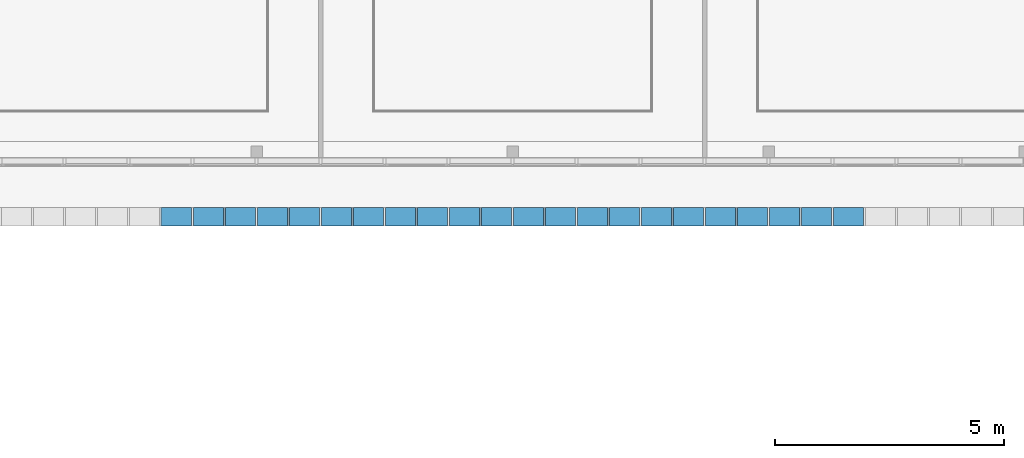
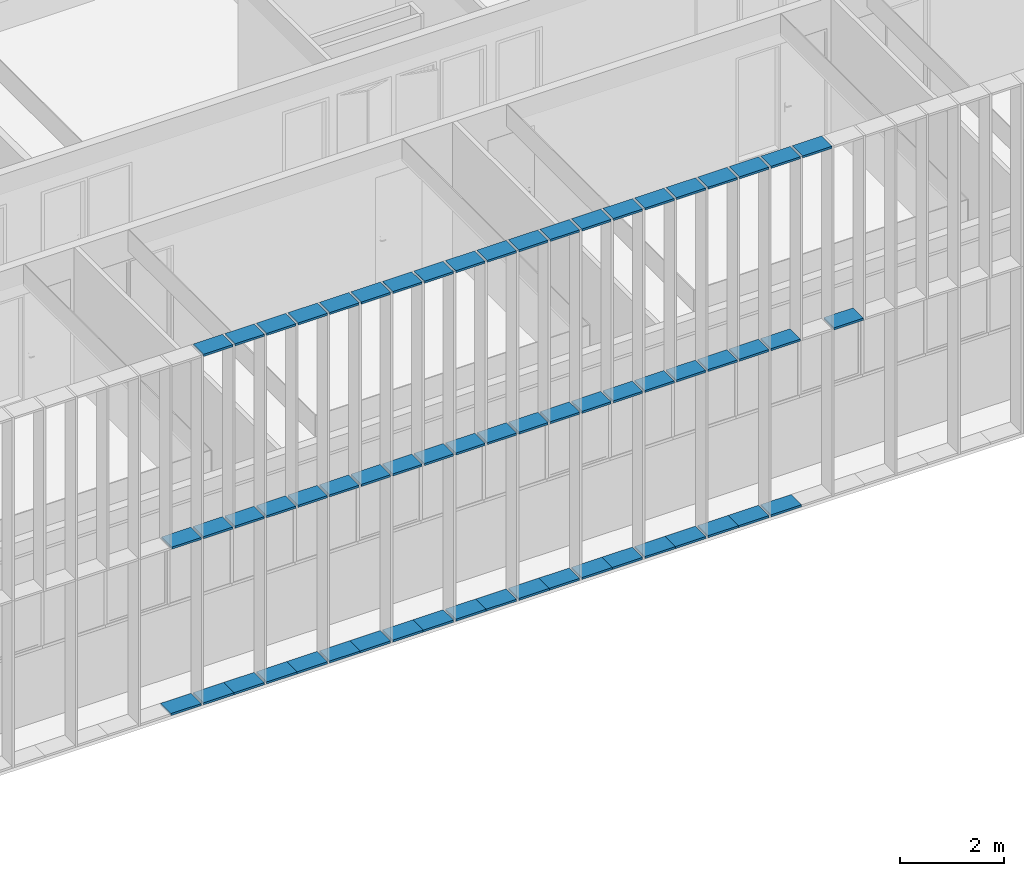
# One storey, part 24 of 106: 61 members, 1 element without a shape of its own.
"""IFC2X3 building model written with IfcOpenShell, lengths in centimetres."""

from ifc_helpers import new_model, entity, si_unit, converted_unit, derived_unit, direction, frame, origin, origin_2d_with_axis, place, context, subcontext, project, spatial, rectangle, extrude, source, transform, mapped, material, type_object, type_shapes, element, aggregate, save


model = new_model("IFC2X3")

# Units and contexts
model_context = context("Model", 3, precision=0.001, world=origin(), true_north=direction((6.12303176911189e-17, 1.0)))
body_context = subcontext(model_context, "Body", "Model", "MODEL_VIEW")
ifc_project = project(units=[si_unit("LENGTHUNIT", "METRE", prefix="CENTI"), si_unit("AREAUNIT", "SQUARE_METRE"), si_unit("VOLUMEUNIT", "CUBIC_METRE"), converted_unit("PLANEANGLEUNIT", "DEGREE", entity("IfcRatioMeasure", 0.0174532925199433), si_unit("PLANEANGLEUNIT", "RADIAN"), dimensions=[0, 0, 0, 0, 0, 0, 0]), si_unit("MASSUNIT", "GRAM", prefix="KILO"), derived_unit("MASSDENSITYUNIT", [(si_unit("MASSUNIT", "GRAM", prefix="KILO"), 1), (si_unit("LENGTHUNIT", "METRE"), -3)]), si_unit("TIMEUNIT", "SECOND"), si_unit("FREQUENCYUNIT", "HERTZ"), si_unit("THERMODYNAMICTEMPERATUREUNIT", "DEGREE_CELSIUS"), derived_unit("THERMALTRANSMITTANCEUNIT", [(si_unit("MASSUNIT", "GRAM", prefix="KILO"), 1), (si_unit("THERMODYNAMICTEMPERATUREUNIT", "KELVIN"), -1), (si_unit("TIMEUNIT", "SECOND"), -3)]), derived_unit("VOLUMETRICFLOWRATEUNIT", [(si_unit("LENGTHUNIT", "METRE"), 3), (si_unit("TIMEUNIT", "SECOND"), -1)]), si_unit("ELECTRICCURRENTUNIT", "AMPERE"), si_unit("ELECTRICVOLTAGEUNIT", "VOLT"), si_unit("POWERUNIT", "WATT"), si_unit("FORCEUNIT", "NEWTON", prefix="KILO"), si_unit("ILLUMINANCEUNIT", "LUX"), si_unit("LUMINOUSFLUXUNIT", "LUMEN"), si_unit("LUMINOUSINTENSITYUNIT", "CANDELA"), derived_unit("USERDEFINED", [(si_unit("MASSUNIT", "GRAM", prefix="KILO"), -1), (si_unit("LENGTHUNIT", "METRE"), -2), (si_unit("TIMEUNIT", "SECOND"), 3), (si_unit("LUMINOUSFLUXUNIT", "LUMEN"), 1)]), derived_unit("LINEARVELOCITYUNIT", [(si_unit("LENGTHUNIT", "METRE"), 1), (si_unit("TIMEUNIT", "SECOND"), -1)]), si_unit("PRESSUREUNIT", "PASCAL"), derived_unit("USERDEFINED", [(si_unit("LENGTHUNIT", "METRE"), -2), (si_unit("MASSUNIT", "GRAM", prefix="KILO"), 1), (si_unit("TIMEUNIT", "SECOND"), -2)])], contexts=[model_context])

# Site, building, storey
site_placement = place(None, frame((-2781.94577612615, 7442.24238424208, 0.0)))
site = spatial("IfcSite", under=ifc_project, at=site_placement, Name="Default", CompositionType="ELEMENT")
building_placement = place(site_placement, origin())
building = spatial("IfcBuilding", under=site, at=building_placement, CompositionType="ELEMENT")
storey_placement = place(building_placement, frame((0.0, 0.0, 422.0)))
storey = spatial("IfcBuildingStorey", under=building, at=storey_placement, Name="Toiture - Cuisine", CompositionType="ELEMENT", Elevation=421.999999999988)

# Curtain wall, members
curtain_wall_type = type_object("IfcCurtainWallType", Name="Mur-rideau:Epines - 400x30mm", PredefinedType="NOTDEFINED")
curtain_wall_placement = place(building_placement, origin())
curtain_wall = element("IfcCurtainWall", 1, at=curtain_wall_placement, inside=storey, type_object=curtain_wall_type, Name="Mur-rideau:Epines - 400x30mm", ObjectType="Mur-rideau:Epines - 400x30mm")
ifc_material = material(Name="Aluminium")
member_type_1 = type_object("IfcMemberType", Name="Epine sud (400x50 mm)", PredefinedType="MEMBER")
shared_shape_1 = source(origin(), body_context, "Body", "SweptSolid", [
    extrude(rectangle(XDim=40.0, YDim=5.0, at=origin_2d_with_axis()), frame((-2.5, 0.0, -65.0), z_axis=(0.0, 0.0, 1.0), x_axis=(0.0, -1.0, 0.0)), (0.0, 0.0, 1.0), 64.9999999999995),
])
type_shapes(member_type_1, [shared_shape_1])
member_1_placement = place(building_placement, frame((-2652.99987760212, -3160.31349958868, 1176.0), z_axis=(1.0, 0.0, 0.0), x_axis=(0.0, 0.0, 1.0)))
member_1 = element("IfcMember", 2, at=member_1_placement, type_object=member_type_1, material=ifc_material, Name="Meneau rectangulaire:Epine sud (400x50 mm)", ObjectType="Meneau rectangulaire:Epine sud (400x50 mm)", context=body_context, shape_type="MappedRepresentation", body=[
    mapped(shared_shape_1, transform((0.0, 0.0, 0.0), scale=1.0)),
])
member_2_placement = place(building_placement, frame((-2512.99987760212, -3160.31349958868, 1176.0), z_axis=(1.0, 0.0, 0.0), x_axis=(0.0, 0.0, 1.0)))
member_2 = element("IfcMember", 3, at=member_2_placement, type_object=member_type_1, material=ifc_material, Name="Meneau rectangulaire:Epine sud (400x50 mm)", ObjectType="Meneau rectangulaire:Epine sud (400x50 mm)", context=body_context, shape_type="MappedRepresentation", body=[
    mapped(shared_shape_1, transform((0.0, 0.0, 0.0), scale=1.0)),
])
member_3_placement = place(building_placement, frame((-2372.99987760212, -3160.31349958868, 1176.0), z_axis=(1.0, 0.0, 0.0), x_axis=(0.0, 0.0, 1.0)))
member_3 = element("IfcMember", 4, at=member_3_placement, type_object=member_type_1, material=ifc_material, Name="Meneau rectangulaire:Epine sud (400x50 mm)", ObjectType="Meneau rectangulaire:Epine sud (400x50 mm)", context=body_context, shape_type="MappedRepresentation", body=[
    mapped(shared_shape_1, transform((0.0, 0.0, 0.0), scale=1.0)),
])
member_4_placement = place(building_placement, frame((-2232.99987760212, -3160.31349958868, 1176.0), z_axis=(1.0, 0.0, 0.0), x_axis=(0.0, 0.0, 1.0)))
member_4 = element("IfcMember", 5, at=member_4_placement, type_object=member_type_1, material=ifc_material, Name="Meneau rectangulaire:Epine sud (400x50 mm)", ObjectType="Meneau rectangulaire:Epine sud (400x50 mm)", context=body_context, shape_type="MappedRepresentation", body=[
    mapped(shared_shape_1, transform((0.0, 0.0, 0.0), scale=1.0)),
])
member_5_placement = place(building_placement, frame((-2092.99987760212, -3160.31349958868, 1176.0), z_axis=(1.0, 0.0, 0.0), x_axis=(0.0, 0.0, 1.0)))
member_5 = element("IfcMember", 6, at=member_5_placement, type_object=member_type_1, material=ifc_material, Name="Meneau rectangulaire:Epine sud (400x50 mm)", ObjectType="Meneau rectangulaire:Epine sud (400x50 mm)", context=body_context, shape_type="MappedRepresentation", body=[
    mapped(shared_shape_1, transform((0.0, 0.0, 0.0), scale=1.0)),
])
member_6_placement = place(building_placement, frame((-1952.99987760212, -3160.31349958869, 1176.0), z_axis=(1.0, 0.0, 0.0), x_axis=(0.0, 0.0, 1.0)))
member_6 = element("IfcMember", 7, at=member_6_placement, type_object=member_type_1, material=ifc_material, Name="Meneau rectangulaire:Epine sud (400x50 mm)", ObjectType="Meneau rectangulaire:Epine sud (400x50 mm)", context=body_context, shape_type="MappedRepresentation", body=[
    mapped(shared_shape_1, transform((0.0, 0.0, 0.0), scale=1.0)),
])
member_7_placement = place(building_placement, frame((-1812.99987760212, -3160.31349958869, 1176.0), z_axis=(1.0, 0.0, 0.0), x_axis=(0.0, 0.0, 1.0)))
member_7 = element("IfcMember", 8, at=member_7_placement, type_object=member_type_1, material=ifc_material, Name="Meneau rectangulaire:Epine sud (400x50 mm)", ObjectType="Meneau rectangulaire:Epine sud (400x50 mm)", context=body_context, shape_type="MappedRepresentation", body=[
    mapped(shared_shape_1, transform((0.0, 0.0, 0.0), scale=1.0)),
])
member_8_placement = place(building_placement, frame((-3072.99987760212, -3160.31349958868, 1176.0), z_axis=(1.0, 0.0, 0.0), x_axis=(0.0, 0.0, 1.0)))
member_8 = element("IfcMember", 9, at=member_8_placement, type_object=member_type_1, material=ifc_material, Name="Meneau rectangulaire:Epine sud (400x50 mm)", ObjectType="Meneau rectangulaire:Epine sud (400x50 mm)", context=body_context, shape_type="MappedRepresentation", body=[
    mapped(shared_shape_1, transform((0.0, 0.0, 0.0), scale=1.0)),
])
member_9_placement = place(building_placement, frame((-2932.99987760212, -3160.31349958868, 1176.0), z_axis=(1.0, 0.0, 0.0), x_axis=(0.0, 0.0, 1.0)))
member_9 = element("IfcMember", 10, at=member_9_placement, type_object=member_type_1, material=ifc_material, Name="Meneau rectangulaire:Epine sud (400x50 mm)", ObjectType="Meneau rectangulaire:Epine sud (400x50 mm)", context=body_context, shape_type="MappedRepresentation", body=[
    mapped(shared_shape_1, transform((0.0, 0.0, 0.0), scale=1.0)),
])
member_10_placement = place(building_placement, frame((-2792.99987760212, -3160.31349958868, 1176.0), z_axis=(1.0, 0.0, 0.0), x_axis=(0.0, 0.0, 1.0)))
member_10 = element("IfcMember", 11, at=member_10_placement, type_object=member_type_1, material=ifc_material, Name="Meneau rectangulaire:Epine sud (400x50 mm)", ObjectType="Meneau rectangulaire:Epine sud (400x50 mm)", context=body_context, shape_type="MappedRepresentation", body=[
    mapped(shared_shape_1, transform((0.0, 0.0, 0.0), scale=1.0)),
])
member_11_placement = place(building_placement, frame((-3142.99987760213, -3160.31349958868, 1176.0), z_axis=(1.0, 0.0, 0.0), x_axis=(0.0, 0.0, 1.0)))
member_11 = element("IfcMember", 12, at=member_11_placement, type_object=member_type_1, material=ifc_material, Name="Meneau rectangulaire:Epine sud (400x50 mm)", ObjectType="Meneau rectangulaire:Epine sud (400x50 mm)", context=body_context, shape_type="MappedRepresentation", body=[
    mapped(shared_shape_1, transform((0.0, 0.0, 0.0), scale=1.0)),
])
member_12_placement = place(building_placement, frame((-3002.99987760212, -3160.31349958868, 1176.0), z_axis=(1.0, 0.0, 0.0), x_axis=(0.0, 0.0, 1.0)))
member_12 = element("IfcMember", 13, at=member_12_placement, type_object=member_type_1, material=ifc_material, Name="Meneau rectangulaire:Epine sud (400x50 mm)", ObjectType="Meneau rectangulaire:Epine sud (400x50 mm)", context=body_context, shape_type="MappedRepresentation", body=[
    mapped(shared_shape_1, transform((0.0, 0.0, 0.0), scale=1.0)),
])
member_13_placement = place(building_placement, frame((-2862.99987760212, -3160.31349958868, 1176.0), z_axis=(1.0, 0.0, 0.0), x_axis=(0.0, 0.0, 1.0)))
member_13 = element("IfcMember", 14, at=member_13_placement, type_object=member_type_1, material=ifc_material, Name="Meneau rectangulaire:Epine sud (400x50 mm)", ObjectType="Meneau rectangulaire:Epine sud (400x50 mm)", context=body_context, shape_type="MappedRepresentation", body=[
    mapped(shared_shape_1, transform((0.0, 0.0, 0.0), scale=1.0)),
])
member_14_placement = place(building_placement, frame((-2722.99987760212, -3160.31349958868, 1176.0), z_axis=(1.0, 0.0, 0.0), x_axis=(0.0, 0.0, 1.0)))
member_14 = element("IfcMember", 15, at=member_14_placement, type_object=member_type_1, material=ifc_material, Name="Meneau rectangulaire:Epine sud (400x50 mm)", ObjectType="Meneau rectangulaire:Epine sud (400x50 mm)", context=body_context, shape_type="MappedRepresentation", body=[
    mapped(shared_shape_1, transform((0.0, 0.0, 0.0), scale=1.0)),
])
member_15_placement = place(building_placement, frame((-2582.99987760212, -3160.31349958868, 1176.0), z_axis=(1.0, 0.0, 0.0), x_axis=(0.0, 0.0, 1.0)))
member_15 = element("IfcMember", 16, at=member_15_placement, type_object=member_type_1, material=ifc_material, Name="Meneau rectangulaire:Epine sud (400x50 mm)", ObjectType="Meneau rectangulaire:Epine sud (400x50 mm)", context=body_context, shape_type="MappedRepresentation", body=[
    mapped(shared_shape_1, transform((0.0, 0.0, 0.0), scale=1.0)),
])
member_16_placement = place(building_placement, frame((-2442.99987760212, -3160.31349958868, 1176.0), z_axis=(1.0, 0.0, 0.0), x_axis=(0.0, 0.0, 1.0)))
member_16 = element("IfcMember", 17, at=member_16_placement, type_object=member_type_1, material=ifc_material, Name="Meneau rectangulaire:Epine sud (400x50 mm)", ObjectType="Meneau rectangulaire:Epine sud (400x50 mm)", context=body_context, shape_type="MappedRepresentation", body=[
    mapped(shared_shape_1, transform((0.0, 0.0, 0.0), scale=1.0)),
])
member_17_placement = place(building_placement, frame((-2302.99987760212, -3160.31349958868, 1176.0), z_axis=(1.0, 0.0, 0.0), x_axis=(0.0, 0.0, 1.0)))
member_17 = element("IfcMember", 18, at=member_17_placement, type_object=member_type_1, material=ifc_material, Name="Meneau rectangulaire:Epine sud (400x50 mm)", ObjectType="Meneau rectangulaire:Epine sud (400x50 mm)", context=body_context, shape_type="MappedRepresentation", body=[
    mapped(shared_shape_1, transform((0.0, 0.0, 0.0), scale=1.0)),
])
member_18_placement = place(building_placement, frame((-2162.99987760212, -3160.31349958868, 1176.0), z_axis=(1.0, 0.0, 0.0), x_axis=(0.0, 0.0, 1.0)))
member_18 = element("IfcMember", 19, at=member_18_placement, type_object=member_type_1, material=ifc_material, Name="Meneau rectangulaire:Epine sud (400x50 mm)", ObjectType="Meneau rectangulaire:Epine sud (400x50 mm)", context=body_context, shape_type="MappedRepresentation", body=[
    mapped(shared_shape_1, transform((0.0, 0.0, 0.0), scale=1.0)),
])
member_19_placement = place(building_placement, frame((-2022.99987760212, -3160.31349958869, 1176.0), z_axis=(1.0, 0.0, 0.0), x_axis=(0.0, 0.0, 1.0)))
member_19 = element("IfcMember", 20, at=member_19_placement, type_object=member_type_1, material=ifc_material, Name="Meneau rectangulaire:Epine sud (400x50 mm)", ObjectType="Meneau rectangulaire:Epine sud (400x50 mm)", context=body_context, shape_type="MappedRepresentation", body=[
    mapped(shared_shape_1, transform((0.0, 0.0, 0.0), scale=1.0)),
])
member_20_placement = place(building_placement, frame((-1882.99987760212, -3160.31349958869, 1176.0), z_axis=(1.0, 0.0, 0.0), x_axis=(0.0, 0.0, 1.0)))
member_20 = element("IfcMember", 21, at=member_20_placement, type_object=member_type_1, material=ifc_material, Name="Meneau rectangulaire:Epine sud (400x50 mm)", ObjectType="Meneau rectangulaire:Epine sud (400x50 mm)", context=body_context, shape_type="MappedRepresentation", body=[
    mapped(shared_shape_1, transform((0.0, 0.0, 0.0), scale=1.0)),
])
member_type_2 = type_object("IfcMemberType", Name="Epine sud (400x50 mm)", PredefinedType="MEMBER")
shared_shape_2 = source(origin(), body_context, "Body", "SweptSolid", [
    extrude(rectangle(XDim=40.0, YDim=5.0, at=origin_2d_with_axis()), frame((-2.5, 0.0, -67.4999999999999), z_axis=(0.0, 0.0, 1.0), x_axis=(0.0, -1.0, 0.0)), (0.0, 0.0, 1.0), 67.5000000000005),
])
type_shapes(member_type_2, [shared_shape_2])
member_21_placement = place(building_placement, frame((-2647.99987760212, -3160.31349958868, 353.0), z_axis=(-1.0, 0.0, 0.0), x_axis=(0.0, 0.0, -1.0)))
member_21 = element("IfcMember", 22, at=member_21_placement, type_object=member_type_2, material=ifc_material, Name="Meneau rectangulaire:Epine sud (400x50 mm)", ObjectType="Meneau rectangulaire:Epine sud (400x50 mm)", context=body_context, shape_type="MappedRepresentation", body=[
    mapped(shared_shape_2, transform((0.0, 0.0, 0.0), scale=1.0)),
])
member_22_placement = place(building_placement, frame((-2507.99987760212, -3160.31349958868, 353.0), z_axis=(-1.0, 0.0, 0.0), x_axis=(0.0, 0.0, -1.0)))
member_22 = element("IfcMember", 23, at=member_22_placement, type_object=member_type_2, material=ifc_material, Name="Meneau rectangulaire:Epine sud (400x50 mm)", ObjectType="Meneau rectangulaire:Epine sud (400x50 mm)", context=body_context, shape_type="MappedRepresentation", body=[
    mapped(shared_shape_2, transform((0.0, 0.0, 0.0), scale=1.0)),
])
member_23_placement = place(building_placement, frame((-2367.99987760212, -3160.31349958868, 353.0), z_axis=(-1.0, 0.0, 0.0), x_axis=(0.0, 0.0, -1.0)))
member_23 = element("IfcMember", 24, at=member_23_placement, type_object=member_type_2, material=ifc_material, Name="Meneau rectangulaire:Epine sud (400x50 mm)", ObjectType="Meneau rectangulaire:Epine sud (400x50 mm)", context=body_context, shape_type="MappedRepresentation", body=[
    mapped(shared_shape_2, transform((0.0, 0.0, 0.0), scale=1.0)),
])
member_24_placement = place(building_placement, frame((-2227.99987760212, -3160.31349958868, 353.0), z_axis=(-1.0, 0.0, 0.0), x_axis=(0.0, 0.0, -1.0)))
member_24 = element("IfcMember", 25, at=member_24_placement, type_object=member_type_2, material=ifc_material, Name="Meneau rectangulaire:Epine sud (400x50 mm)", ObjectType="Meneau rectangulaire:Epine sud (400x50 mm)", context=body_context, shape_type="MappedRepresentation", body=[
    mapped(shared_shape_2, transform((0.0, 0.0, 0.0), scale=1.0)),
])
member_25_placement = place(building_placement, frame((-2087.99987760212, -3160.31349958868, 353.0), z_axis=(-1.0, 0.0, 0.0), x_axis=(0.0, 0.0, -1.0)))
member_25 = element("IfcMember", 26, at=member_25_placement, type_object=member_type_2, material=ifc_material, Name="Meneau rectangulaire:Epine sud (400x50 mm)", ObjectType="Meneau rectangulaire:Epine sud (400x50 mm)", context=body_context, shape_type="MappedRepresentation", body=[
    mapped(shared_shape_2, transform((0.0, 0.0, 0.0), scale=1.0)),
])
member_26_placement = place(building_placement, frame((-1947.99987760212, -3160.31349958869, 353.0), z_axis=(-1.0, 0.0, 0.0), x_axis=(0.0, 0.0, -1.0)))
member_26 = element("IfcMember", 27, at=member_26_placement, type_object=member_type_2, material=ifc_material, Name="Meneau rectangulaire:Epine sud (400x50 mm)", ObjectType="Meneau rectangulaire:Epine sud (400x50 mm)", context=body_context, shape_type="MappedRepresentation", body=[
    mapped(shared_shape_2, transform((0.0, 0.0, 0.0), scale=1.0)),
])
member_27_placement = place(building_placement, frame((-3207.99987760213, -3160.31349958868, 353.0), z_axis=(-1.0, 0.0, 0.0), x_axis=(0.0, 0.0, -1.0)))
member_27 = element("IfcMember", 28, at=member_27_placement, type_object=member_type_2, material=ifc_material, Name="Meneau rectangulaire:Epine sud (400x50 mm)", ObjectType="Meneau rectangulaire:Epine sud (400x50 mm)", context=body_context, shape_type="MappedRepresentation", body=[
    mapped(shared_shape_2, transform((0.0, 0.0, 0.0), scale=1.0)),
])
member_28_placement = place(building_placement, frame((-3067.99987760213, -3160.31349958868, 353.0), z_axis=(-1.0, 0.0, 0.0), x_axis=(0.0, 0.0, -1.0)))
member_28 = element("IfcMember", 29, at=member_28_placement, type_object=member_type_2, material=ifc_material, Name="Meneau rectangulaire:Epine sud (400x50 mm)", ObjectType="Meneau rectangulaire:Epine sud (400x50 mm)", context=body_context, shape_type="MappedRepresentation", body=[
    mapped(shared_shape_2, transform((0.0, 0.0, 0.0), scale=1.0)),
])
member_29_placement = place(building_placement, frame((-2927.99987760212, -3160.31349958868, 353.0), z_axis=(-1.0, 0.0, 0.0), x_axis=(0.0, 0.0, -1.0)))
member_29 = element("IfcMember", 30, at=member_29_placement, type_object=member_type_2, material=ifc_material, Name="Meneau rectangulaire:Epine sud (400x50 mm)", ObjectType="Meneau rectangulaire:Epine sud (400x50 mm)", context=body_context, shape_type="MappedRepresentation", body=[
    mapped(shared_shape_2, transform((0.0, 0.0, 0.0), scale=1.0)),
])
member_30_placement = place(building_placement, frame((-2787.99987760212, -3160.31349958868, 353.0), z_axis=(-1.0, 0.0, 0.0), x_axis=(0.0, 0.0, -1.0)))
member_30 = element("IfcMember", 31, at=member_30_placement, type_object=member_type_2, material=ifc_material, Name="Meneau rectangulaire:Epine sud (400x50 mm)", ObjectType="Meneau rectangulaire:Epine sud (400x50 mm)", context=body_context, shape_type="MappedRepresentation", body=[
    mapped(shared_shape_2, transform((0.0, 0.0, 0.0), scale=1.0)),
])
member_type_3 = type_object("IfcMemberType", Name="Epine sud (400x50 mm)", PredefinedType="MEMBER")
shared_shape_3 = source(origin(), body_context, "Body", "SweptSolid", [
    extrude(rectangle(XDim=40.0, YDim=5.0, at=origin_2d_with_axis()), frame((0.0, 0.0, -65.0), z_axis=(0.0, 0.0, 1.0), x_axis=(0.0, -1.0, 0.0)), (0.0, 0.0, 1.0), 65.0000000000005),
])
type_shapes(member_type_3, [shared_shape_3])
member_31_placement = place(building_placement, frame((-2582.99987760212, -3160.31349958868, 745.5), z_axis=(1.0, 0.0, 0.0), x_axis=(0.0, 0.0, 1.0)))
member_31 = element("IfcMember", 32, at=member_31_placement, type_object=member_type_3, material=ifc_material, Name="Meneau rectangulaire:Epine sud (400x50 mm)", ObjectType="Meneau rectangulaire:Epine sud (400x50 mm)", context=body_context, shape_type="MappedRepresentation", body=[
    mapped(shared_shape_3, transform((0.0, 0.0, 0.0), scale=1.0)),
])
member_32_placement = place(building_placement, frame((-2442.99987760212, -3160.31349958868, 745.5), z_axis=(1.0, 0.0, 0.0), x_axis=(0.0, 0.0, 1.0)))
member_32 = element("IfcMember", 33, at=member_32_placement, type_object=member_type_3, material=ifc_material, Name="Meneau rectangulaire:Epine sud (400x50 mm)", ObjectType="Meneau rectangulaire:Epine sud (400x50 mm)", context=body_context, shape_type="MappedRepresentation", body=[
    mapped(shared_shape_3, transform((0.0, 0.0, 0.0), scale=1.0)),
])
member_33_placement = place(building_placement, frame((-2302.99987760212, -3160.31349958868, 745.5), z_axis=(1.0, 0.0, 0.0), x_axis=(0.0, 0.0, 1.0)))
member_33 = element("IfcMember", 34, at=member_33_placement, type_object=member_type_3, material=ifc_material, Name="Meneau rectangulaire:Epine sud (400x50 mm)", ObjectType="Meneau rectangulaire:Epine sud (400x50 mm)", context=body_context, shape_type="MappedRepresentation", body=[
    mapped(shared_shape_3, transform((0.0, 0.0, 0.0), scale=1.0)),
])
member_34_placement = place(building_placement, frame((-2162.99987760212, -3160.31349958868, 745.5), z_axis=(1.0, 0.0, 0.0), x_axis=(0.0, 0.0, 1.0)))
member_34 = element("IfcMember", 35, at=member_34_placement, type_object=member_type_3, material=ifc_material, Name="Meneau rectangulaire:Epine sud (400x50 mm)", ObjectType="Meneau rectangulaire:Epine sud (400x50 mm)", context=body_context, shape_type="MappedRepresentation", body=[
    mapped(shared_shape_3, transform((0.0, 0.0, 0.0), scale=1.0)),
])
member_35_placement = place(building_placement, frame((-2022.99987760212, -3160.31349958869, 745.5), z_axis=(1.0, 0.0, 0.0), x_axis=(0.0, 0.0, 1.0)))
member_35 = element("IfcMember", 36, at=member_35_placement, type_object=member_type_3, material=ifc_material, Name="Meneau rectangulaire:Epine sud (400x50 mm)", ObjectType="Meneau rectangulaire:Epine sud (400x50 mm)", context=body_context, shape_type="MappedRepresentation", body=[
    mapped(shared_shape_3, transform((0.0, 0.0, 0.0), scale=1.0)),
])
member_36_placement = place(building_placement, frame((-1882.99987760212, -3160.31349958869, 745.5), z_axis=(1.0, 0.0, 0.0), x_axis=(0.0, 0.0, 1.0)))
member_36 = element("IfcMember", 37, at=member_36_placement, type_object=member_type_3, material=ifc_material, Name="Meneau rectangulaire:Epine sud (400x50 mm)", ObjectType="Meneau rectangulaire:Epine sud (400x50 mm)", context=body_context, shape_type="MappedRepresentation", body=[
    mapped(shared_shape_3, transform((0.0, 0.0, 0.0), scale=1.0)),
])
member_37_placement = place(building_placement, frame((-1742.99987760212, -3160.31349958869, 745.5), z_axis=(1.0, 0.0, 0.0), x_axis=(0.0, 0.0, 1.0)))
member_37 = element("IfcMember", 38, at=member_37_placement, type_object=member_type_3, material=ifc_material, Name="Meneau rectangulaire:Epine sud (400x50 mm)", ObjectType="Meneau rectangulaire:Epine sud (400x50 mm)", context=body_context, shape_type="MappedRepresentation", body=[
    mapped(shared_shape_3, transform((0.0, 0.0, 0.0), scale=1.0)),
])
member_38_placement = place(building_placement, frame((-3142.99987760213, -3160.31349958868, 745.5), z_axis=(1.0, 0.0, 0.0), x_axis=(0.0, 0.0, 1.0)))
member_38 = element("IfcMember", 39, at=member_38_placement, type_object=member_type_3, material=ifc_material, Name="Meneau rectangulaire:Epine sud (400x50 mm)", ObjectType="Meneau rectangulaire:Epine sud (400x50 mm)", context=body_context, shape_type="MappedRepresentation", body=[
    mapped(shared_shape_3, transform((0.0, 0.0, 0.0), scale=1.0)),
])
member_39_placement = place(building_placement, frame((-3002.99987760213, -3160.31349958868, 745.5), z_axis=(1.0, 0.0, 0.0), x_axis=(0.0, 0.0, 1.0)))
member_39 = element("IfcMember", 40, at=member_39_placement, type_object=member_type_3, material=ifc_material, Name="Meneau rectangulaire:Epine sud (400x50 mm)", ObjectType="Meneau rectangulaire:Epine sud (400x50 mm)", context=body_context, shape_type="MappedRepresentation", body=[
    mapped(shared_shape_3, transform((0.0, 0.0, 0.0), scale=1.0)),
])
member_40_placement = place(building_placement, frame((-2862.99987760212, -3160.31349958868, 745.5), z_axis=(1.0, 0.0, 0.0), x_axis=(0.0, 0.0, 1.0)))
member_40 = element("IfcMember", 41, at=member_40_placement, type_object=member_type_3, material=ifc_material, Name="Meneau rectangulaire:Epine sud (400x50 mm)", ObjectType="Meneau rectangulaire:Epine sud (400x50 mm)", context=body_context, shape_type="MappedRepresentation", body=[
    mapped(shared_shape_3, transform((0.0, 0.0, 0.0), scale=1.0)),
])
member_41_placement = place(building_placement, frame((-2722.99987760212, -3160.31349958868, 745.5), z_axis=(1.0, 0.0, 0.0), x_axis=(0.0, 0.0, 1.0)))
member_41 = element("IfcMember", 42, at=member_41_placement, type_object=member_type_3, material=ifc_material, Name="Meneau rectangulaire:Epine sud (400x50 mm)", ObjectType="Meneau rectangulaire:Epine sud (400x50 mm)", context=body_context, shape_type="MappedRepresentation", body=[
    mapped(shared_shape_3, transform((0.0, 0.0, 0.0), scale=1.0)),
])
member_42_placement = place(building_placement, frame((-3212.99987760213, -3160.31349958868, 745.5), z_axis=(1.0, 0.0, 0.0), x_axis=(0.0, 0.0, 1.0)))
member_42 = element("IfcMember", 43, at=member_42_placement, type_object=member_type_3, material=ifc_material, Name="Meneau rectangulaire:Epine sud (400x50 mm)", ObjectType="Meneau rectangulaire:Epine sud (400x50 mm)", context=body_context, shape_type="MappedRepresentation", body=[
    mapped(shared_shape_3, transform((0.0, 0.0, 0.0), scale=1.0)),
])
member_43_placement = place(building_placement, frame((-3072.99987760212, -3160.31349958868, 745.5), z_axis=(1.0, 0.0, 0.0), x_axis=(0.0, 0.0, 1.0)))
member_43 = element("IfcMember", 44, at=member_43_placement, type_object=member_type_3, material=ifc_material, Name="Meneau rectangulaire:Epine sud (400x50 mm)", ObjectType="Meneau rectangulaire:Epine sud (400x50 mm)", context=body_context, shape_type="MappedRepresentation", body=[
    mapped(shared_shape_3, transform((0.0, 0.0, 0.0), scale=1.0)),
])
member_44_placement = place(building_placement, frame((-2932.99987760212, -3160.31349958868, 745.5), z_axis=(1.0, 0.0, 0.0), x_axis=(0.0, 0.0, 1.0)))
member_44 = element("IfcMember", 45, at=member_44_placement, type_object=member_type_3, material=ifc_material, Name="Meneau rectangulaire:Epine sud (400x50 mm)", ObjectType="Meneau rectangulaire:Epine sud (400x50 mm)", context=body_context, shape_type="MappedRepresentation", body=[
    mapped(shared_shape_3, transform((0.0, 0.0, 0.0), scale=1.0)),
])
member_45_placement = place(building_placement, frame((-2792.99987760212, -3160.31349958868, 745.5), z_axis=(1.0, 0.0, 0.0), x_axis=(0.0, 0.0, 1.0)))
member_45 = element("IfcMember", 46, at=member_45_placement, type_object=member_type_3, material=ifc_material, Name="Meneau rectangulaire:Epine sud (400x50 mm)", ObjectType="Meneau rectangulaire:Epine sud (400x50 mm)", context=body_context, shape_type="MappedRepresentation", body=[
    mapped(shared_shape_3, transform((0.0, 0.0, 0.0), scale=1.0)),
])
member_46_placement = place(building_placement, frame((-2652.99987760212, -3160.31349958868, 745.5), z_axis=(1.0, 0.0, 0.0), x_axis=(0.0, 0.0, 1.0)))
member_46 = element("IfcMember", 47, at=member_46_placement, type_object=member_type_3, material=ifc_material, Name="Meneau rectangulaire:Epine sud (400x50 mm)", ObjectType="Meneau rectangulaire:Epine sud (400x50 mm)", context=body_context, shape_type="MappedRepresentation", body=[
    mapped(shared_shape_3, transform((0.0, 0.0, 0.0), scale=1.0)),
])
member_47_placement = place(building_placement, frame((-2512.99987760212, -3160.31349958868, 745.5), z_axis=(1.0, 0.0, 0.0), x_axis=(0.0, 0.0, 1.0)))
member_47 = element("IfcMember", 48, at=member_47_placement, type_object=member_type_3, material=ifc_material, Name="Meneau rectangulaire:Epine sud (400x50 mm)", ObjectType="Meneau rectangulaire:Epine sud (400x50 mm)", context=body_context, shape_type="MappedRepresentation", body=[
    mapped(shared_shape_3, transform((0.0, 0.0, 0.0), scale=1.0)),
])
member_48_placement = place(building_placement, frame((-2372.99987760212, -3160.31349958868, 745.5), z_axis=(1.0, 0.0, 0.0), x_axis=(0.0, 0.0, 1.0)))
member_48 = element("IfcMember", 49, at=member_48_placement, type_object=member_type_3, material=ifc_material, Name="Meneau rectangulaire:Epine sud (400x50 mm)", ObjectType="Meneau rectangulaire:Epine sud (400x50 mm)", context=body_context, shape_type="MappedRepresentation", body=[
    mapped(shared_shape_3, transform((0.0, 0.0, 0.0), scale=1.0)),
])
member_49_placement = place(building_placement, frame((-2232.99987760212, -3160.31349958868, 745.5), z_axis=(1.0, 0.0, 0.0), x_axis=(0.0, 0.0, 1.0)))
member_49 = element("IfcMember", 50, at=member_49_placement, type_object=member_type_3, material=ifc_material, Name="Meneau rectangulaire:Epine sud (400x50 mm)", ObjectType="Meneau rectangulaire:Epine sud (400x50 mm)", context=body_context, shape_type="MappedRepresentation", body=[
    mapped(shared_shape_3, transform((0.0, 0.0, 0.0), scale=1.0)),
])
member_50_placement = place(building_placement, frame((-2092.99987760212, -3160.31349958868, 745.5), z_axis=(1.0, 0.0, 0.0), x_axis=(0.0, 0.0, 1.0)))
member_50 = element("IfcMember", 51, at=member_50_placement, type_object=member_type_3, material=ifc_material, Name="Meneau rectangulaire:Epine sud (400x50 mm)", ObjectType="Meneau rectangulaire:Epine sud (400x50 mm)", context=body_context, shape_type="MappedRepresentation", body=[
    mapped(shared_shape_3, transform((0.0, 0.0, 0.0), scale=1.0)),
])
member_51_placement = place(building_placement, frame((-1952.99987760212, -3160.31349958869, 745.5), z_axis=(1.0, 0.0, 0.0), x_axis=(0.0, 0.0, 1.0)))
member_51 = element("IfcMember", 52, at=member_51_placement, type_object=member_type_3, material=ifc_material, Name="Meneau rectangulaire:Epine sud (400x50 mm)", ObjectType="Meneau rectangulaire:Epine sud (400x50 mm)", context=body_context, shape_type="MappedRepresentation", body=[
    mapped(shared_shape_3, transform((0.0, 0.0, 0.0), scale=1.0)),
])
member_type_4 = type_object("IfcMemberType", Name="Epine sud (400x50 mm)", PredefinedType="MEMBER")
shared_shape_4 = source(origin(), body_context, "Body", "SweptSolid", [
    extrude(rectangle(XDim=40.0, YDim=5.0, at=origin_2d_with_axis()), frame((-2.5, 0.0, -67.4999999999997), z_axis=(0.0, 0.0, 1.0), x_axis=(0.0, -1.0, 0.0)), (0.0, 0.0, 1.0), 67.4999999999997),
])
type_shapes(member_type_4, [shared_shape_4])
member_52_placement = place(building_placement, frame((-3280.49987760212, -3160.31349958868, 353.0), z_axis=(-1.0, 0.0, 0.0), x_axis=(0.0, 0.0, -1.0)))
member_52 = element("IfcMember", 53, at=member_52_placement, type_object=member_type_4, material=ifc_material, Name="Meneau rectangulaire:Epine sud (400x50 mm)", ObjectType="Meneau rectangulaire:Epine sud (400x50 mm)", context=body_context, shape_type="MappedRepresentation", body=[
    mapped(shared_shape_4, transform((0.0, 0.0, 0.0), scale=1.0)),
])
member_53_placement = place(building_placement, frame((-3140.49987760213, -3160.31349958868, 353.0), z_axis=(-1.0, 0.0, 0.0), x_axis=(0.0, 0.0, -1.0)))
member_53 = element("IfcMember", 54, at=member_53_placement, type_object=member_type_4, material=ifc_material, Name="Meneau rectangulaire:Epine sud (400x50 mm)", ObjectType="Meneau rectangulaire:Epine sud (400x50 mm)", context=body_context, shape_type="MappedRepresentation", body=[
    mapped(shared_shape_4, transform((0.0, 0.0, 0.0), scale=1.0)),
])
member_54_placement = place(building_placement, frame((-3000.49987760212, -3160.31349958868, 353.0), z_axis=(-1.0, 0.0, 0.0), x_axis=(0.0, 0.0, -1.0)))
member_54 = element("IfcMember", 55, at=member_54_placement, type_object=member_type_4, material=ifc_material, Name="Meneau rectangulaire:Epine sud (400x50 mm)", ObjectType="Meneau rectangulaire:Epine sud (400x50 mm)", context=body_context, shape_type="MappedRepresentation", body=[
    mapped(shared_shape_4, transform((0.0, 0.0, 0.0), scale=1.0)),
])
member_55_placement = place(building_placement, frame((-2860.49987760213, -3160.31349958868, 353.0), z_axis=(-1.0, 0.0, 0.0), x_axis=(0.0, 0.0, -1.0)))
member_55 = element("IfcMember", 56, at=member_55_placement, type_object=member_type_4, material=ifc_material, Name="Meneau rectangulaire:Epine sud (400x50 mm)", ObjectType="Meneau rectangulaire:Epine sud (400x50 mm)", context=body_context, shape_type="MappedRepresentation", body=[
    mapped(shared_shape_4, transform((0.0, 0.0, 0.0), scale=1.0)),
])
member_56_placement = place(building_placement, frame((-2720.49987760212, -3160.31349958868, 353.0), z_axis=(-1.0, 0.0, 0.0), x_axis=(0.0, 0.0, -1.0)))
member_56 = element("IfcMember", 57, at=member_56_placement, type_object=member_type_4, material=ifc_material, Name="Meneau rectangulaire:Epine sud (400x50 mm)", ObjectType="Meneau rectangulaire:Epine sud (400x50 mm)", context=body_context, shape_type="MappedRepresentation", body=[
    mapped(shared_shape_4, transform((0.0, 0.0, 0.0), scale=1.0)),
])
member_57_placement = place(building_placement, frame((-2580.49987760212, -3160.31349958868, 353.0), z_axis=(-1.0, 0.0, 0.0), x_axis=(0.0, 0.0, -1.0)))
member_57 = element("IfcMember", 58, at=member_57_placement, type_object=member_type_4, material=ifc_material, Name="Meneau rectangulaire:Epine sud (400x50 mm)", ObjectType="Meneau rectangulaire:Epine sud (400x50 mm)", context=body_context, shape_type="MappedRepresentation", body=[
    mapped(shared_shape_4, transform((0.0, 0.0, 0.0), scale=1.0)),
])
member_58_placement = place(building_placement, frame((-2440.49987760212, -3160.31349958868, 353.0), z_axis=(-1.0, 0.0, 0.0), x_axis=(0.0, 0.0, -1.0)))
member_58 = element("IfcMember", 59, at=member_58_placement, type_object=member_type_4, material=ifc_material, Name="Meneau rectangulaire:Epine sud (400x50 mm)", ObjectType="Meneau rectangulaire:Epine sud (400x50 mm)", context=body_context, shape_type="MappedRepresentation", body=[
    mapped(shared_shape_4, transform((0.0, 0.0, 0.0), scale=1.0)),
])
member_59_placement = place(building_placement, frame((-2300.49987760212, -3160.31349958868, 353.0), z_axis=(-1.0, 0.0, 0.0), x_axis=(0.0, 0.0, -1.0)))
member_59 = element("IfcMember", 60, at=member_59_placement, type_object=member_type_4, material=ifc_material, Name="Meneau rectangulaire:Epine sud (400x50 mm)", ObjectType="Meneau rectangulaire:Epine sud (400x50 mm)", context=body_context, shape_type="MappedRepresentation", body=[
    mapped(shared_shape_4, transform((0.0, 0.0, 0.0), scale=1.0)),
])
member_60_placement = place(building_placement, frame((-2160.49987760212, -3160.31349958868, 353.0), z_axis=(-1.0, 0.0, 0.0), x_axis=(0.0, 0.0, -1.0)))
member_60 = element("IfcMember", 61, at=member_60_placement, type_object=member_type_4, material=ifc_material, Name="Meneau rectangulaire:Epine sud (400x50 mm)", ObjectType="Meneau rectangulaire:Epine sud (400x50 mm)", context=body_context, shape_type="MappedRepresentation", body=[
    mapped(shared_shape_4, transform((0.0, 0.0, 0.0), scale=1.0)),
])
member_61_placement = place(building_placement, frame((-2020.49987760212, -3160.31349958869, 353.0), z_axis=(-1.0, 0.0, 0.0), x_axis=(0.0, 0.0, -1.0)))
member_61 = element("IfcMember", 62, at=member_61_placement, type_object=member_type_4, material=ifc_material, Name="Meneau rectangulaire:Epine sud (400x50 mm)", ObjectType="Meneau rectangulaire:Epine sud (400x50 mm)", context=body_context, shape_type="MappedRepresentation", body=[
    mapped(shared_shape_4, transform((0.0, 0.0, 0.0), scale=1.0)),
])
aggregate(curtain_wall, [member_1, member_21, member_2, member_22, member_31, member_32, member_3, member_23, member_33, member_4, member_24, member_34, member_5, member_25, member_35, member_6, member_26, member_36, member_7, member_37, member_27, member_38, member_8, member_28, member_39, member_9, member_29, member_40, member_10, member_30, member_41, member_52, member_42, member_11, member_53, member_43, member_12, member_54, member_44, member_13, member_55, member_45, member_14, member_56, member_46, member_15, member_57, member_47, member_16, member_58, member_48, member_17, member_59, member_49, member_18, member_60, member_50, member_19, member_61, member_51, member_20])

save(model, "model.ifc")
